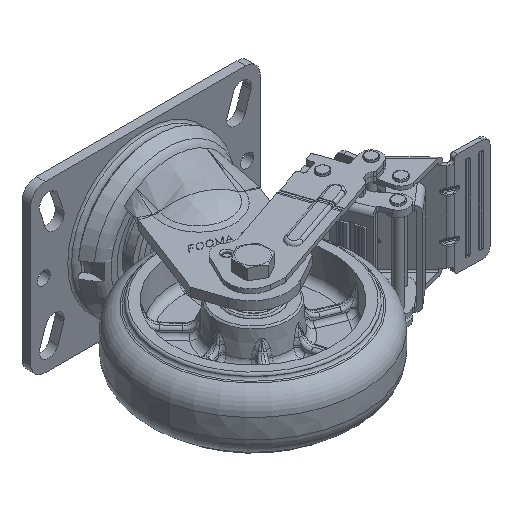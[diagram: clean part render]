
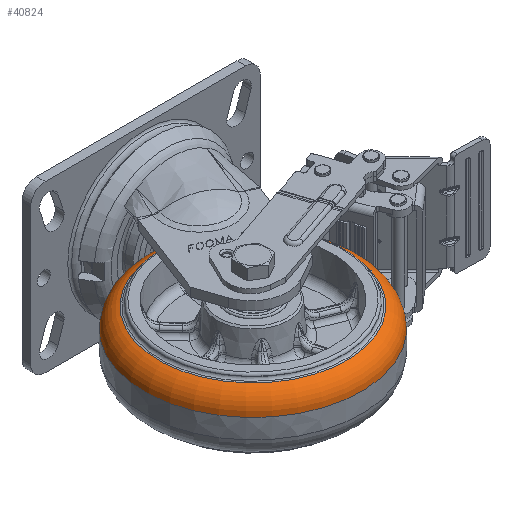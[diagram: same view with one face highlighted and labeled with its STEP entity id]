
A CAD part, isometric view. The second image highlights one B-rep face of the part: STEP entity #40824.
In plain terms, the highlighted toroidal (fillet/blend) face has major radius 59.865 mm and minor radius 15 mm.
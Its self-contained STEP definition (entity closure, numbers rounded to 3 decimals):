
#1328=TOROIDAL_SURFACE('',#43913,59.865,15.);
#9270=FACE_BOUND('',#13454,.T.);
#10982=FACE_OUTER_BOUND('',#13453,.T.);
#13453=EDGE_LOOP('',(#33189));
#13454=EDGE_LOOP('',(#33190,#33191));
#14818=CIRCLE('',#43912,64.78);
#14819=CIRCLE('',#43914,74.85);
#14820=CIRCLE('',#43915,74.85);
#18096=VERTEX_POINT('',#67506);
#18097=VERTEX_POINT('',#67509);
#18098=VERTEX_POINT('',#67510);
#23190=EDGE_CURVE('',#18096,#18096,#14818,.T.);
#23191=EDGE_CURVE('',#18097,#18098,#14819,.T.);
#23192=EDGE_CURVE('',#18098,#18097,#14820,.T.);
#33189=ORIENTED_EDGE('',*,*,#23190,.T.);
#33190=ORIENTED_EDGE('',*,*,#23191,.F.);
#33191=ORIENTED_EDGE('',*,*,#23192,.F.);
#40824=ADVANCED_FACE('',(#10982,#9270),#1328,.T.);
#43912=AXIS2_PLACEMENT_3D('',#67507,#53091,#53092);
#43913=AXIS2_PLACEMENT_3D('',#67508,#53093,#53094);
#43914=AXIS2_PLACEMENT_3D('',#67511,#53095,#53096);
#43915=AXIS2_PLACEMENT_3D('',#67512,#53097,#53098);
#53091=DIRECTION('center_axis',(0.,0.,
-1.));
#53092=DIRECTION('ref_axis',(-0.999,-0.039,0.));
#53093=DIRECTION('center_axis',(0.,0.,
-1.));
#53094=DIRECTION('ref_axis',(-0.999,-0.039,0.));
#53095=DIRECTION('center_axis',(0.,0.,
-1.));
#53096=DIRECTION('ref_axis',(-0.999,-0.039,0.));
#53097=DIRECTION('center_axis',(0.,0.,
-1.));
#53098=DIRECTION('ref_axis',(-0.999,-0.039,0.));
#67506=CARTESIAN_POINT('',(-34.912,-40.879,20.209));
#67507=CARTESIAN_POINT('Origin',(-32.37,-105.609,20.209));
#67508=CARTESIAN_POINT('Origin',(-32.37,-105.609,6.037));
#67509=CARTESIAN_POINT('',(-35.308,-30.817,6.708));
#67510=CARTESIAN_POINT('',(42.422,-102.672,6.708));
#67511=CARTESIAN_POINT('Origin',(-32.37,-105.609,6.708));
#67512=CARTESIAN_POINT('Origin',(-32.37,-105.609,6.708));
